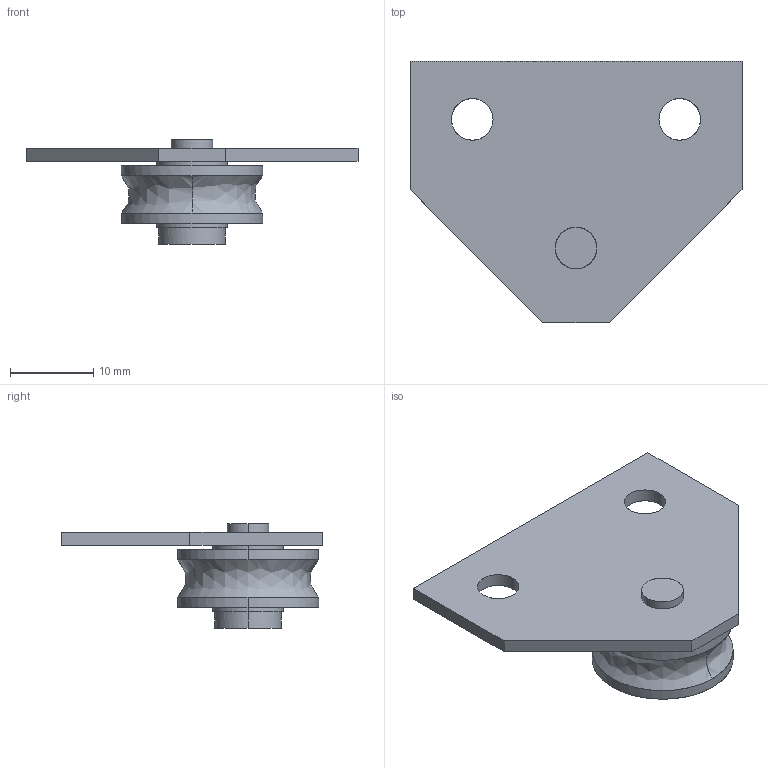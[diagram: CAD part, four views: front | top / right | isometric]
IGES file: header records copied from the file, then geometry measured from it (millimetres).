
Global section: file name: No Iges File Name specified; native system: AutoDesk Inventor R11.0; preprocessor: AutoDesk Inventor Iges Exporter R11.0; author: No Author specified; organization: No Organization specified; date: 20190511.111057; units: millimetre
Bounding box: 40 x 31.5 x 12.6 mm (x, y, z)
Surface area: 3119.7 mm2 (no closed solid volume)
Topology: 0 solids, 0 shells, 34 faces, 232 edges, 232 vertices
Faces by surface type: bspline 34
